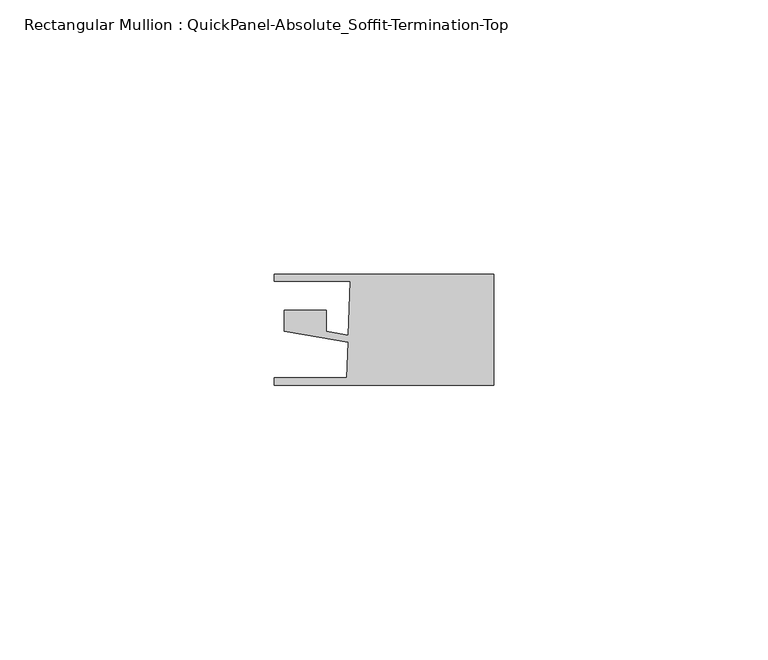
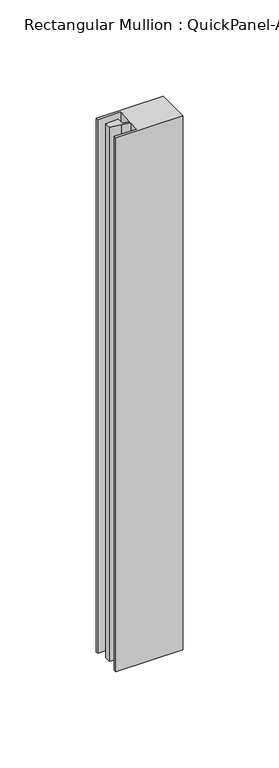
"""IFC4 building model written with IfcOpenShell, lengths in millimetres: member geometry, Rectangular Mullion : QuickPanel-Absolute_Soffit-Termination-Top."""

from ifc_helpers import new_model, si_unit, frame, origin, place, context, project, spatial, polyline, outline, extrude, source, transform, mapped, element, save


def rectangular_mullion_quickpanel_absolute_soffit_termination_cf8f7efe(model_context):
    return source(origin(), model_context, "Body", "SweptSolid", [
        extrude(outline(polyline([(-40.0272216, -8.095605), (-40.0272216, -6.6935423), (-26.7863089, -6.6935423), (-26.5595237, -0.1992641), (-31.8098046, 0.7008023), (-38.2451373, 1.8040245), (-38.2451373, 5.6493034), (-30.5003642, 5.6493034), (-30.5003642, 1.7648465), (-26.5147952, 1.0815922), (-26.1708682, 10.9303752), (-40.0272216, 10.9303752), (-40.0272216, 12.1803727), (0.0, 12.1803727), (0.0, -8.095605), (-40.0272216, -8.095605)])), frame((0.0, 0.0, -338.388579), z_axis=(0.0, 0.0, 1.0), x_axis=(1.0, 0.0, 0.0)), (0.0, 0.0, 1.0), 338.388579),
    ])


if __name__ == "__main__":
    model = new_model("IFC4")
    model_context = context("Model", 3, world=origin())
    ifc_project = project(units=[si_unit("LENGTHUNIT", "METRE", prefix="MILLI")], contexts=[model_context])
    site = spatial("IfcSite", under=ifc_project)
    building = spatial("IfcBuilding", under=site)
    placement = place(None, origin())
    rectangular_mullion_quickpanel_absolute_soffit_termination_shape = rectangular_mullion_quickpanel_absolute_soffit_termination_cf8f7efe(model_context)
    element("IfcMember", 1, ObjectType="Rectangular Mullion : QuickPanel-Absolute_Soffit-Termination-Top", at=placement, inside=building, context=model_context, shape_type="MappedRepresentation", body=[
        mapped(rectangular_mullion_quickpanel_absolute_soffit_termination_shape, transform((0.0, 0.0, 0.0), x_axis=(1.0, 0.0, 0.0), y_axis=(0.0, 1.0, 0.0), z_axis=(0.0, 0.0, 1.0))),
    ])
    save(model, "model.ifc")
